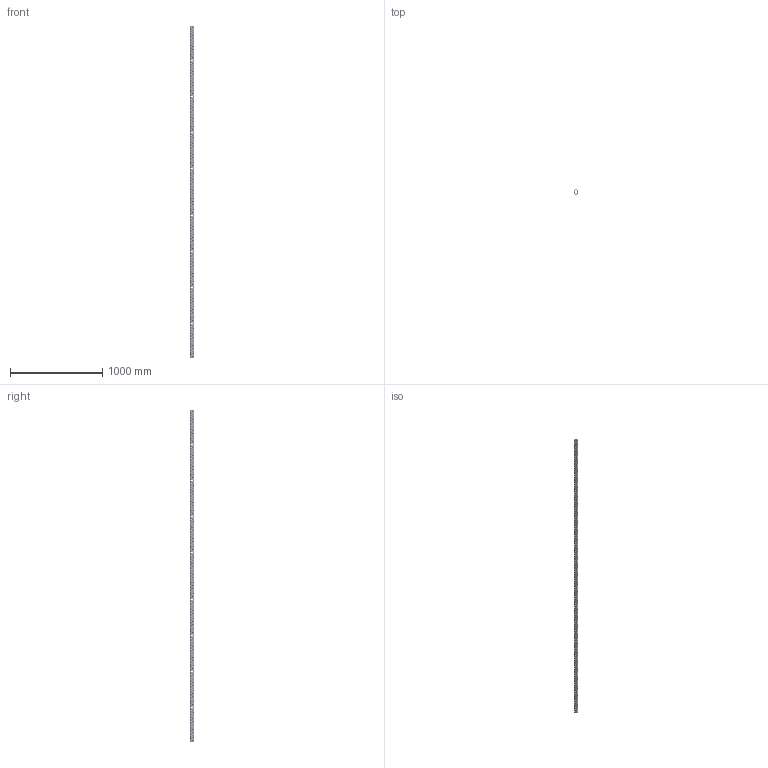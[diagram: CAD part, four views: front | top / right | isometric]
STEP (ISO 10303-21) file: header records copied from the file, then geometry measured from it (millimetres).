
FILE_DESCRIPTION(('CATIA V5 STEP Exchange'),'2;1');
FILE_NAME('U:\Room\唐宝山\EGT002\46-01-010349-01-EGT002-3598.stp','2021-08-25T00:41:33+00:00',('none'),('none'),'CATIA Version 5 Release 21 GA (IN-10)','CATIA V5 STEP AP203','none');
FILE_SCHEMA(('CONFIG_CONTROL_DESIGN'));
Products named in the file (1): 46-01-010349-01-EGT002-3598
Bounding box: 50 x 50 x 3598 mm (x, y, z)
Volume: 2563761.2 mm3; surface area: 1234580.5 mm2
Topology: 1 solids, 1 shells, 4884 faces, 13446 edges, 8324 vertices
Faces by surface type: cone 2880, cylinder 1978, plane 26
Entity records: 198199 total; most frequent: CARTESIAN_POINT 79668, ORIENTED_EDGE 26892, DIRECTION 19179, EDGE_CURVE 13446, AXIS2_PLACEMENT_3D 9126, VERTEX_POINT 8324, EDGE_LOOP 6566, VECTOR 5170
